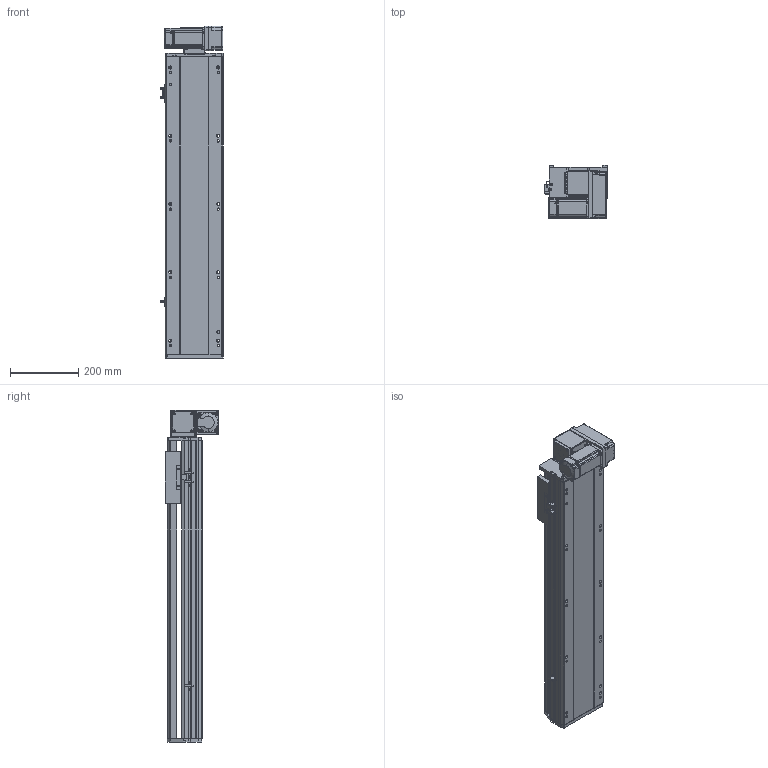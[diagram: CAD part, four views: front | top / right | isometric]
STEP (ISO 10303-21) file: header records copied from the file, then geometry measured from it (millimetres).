
FILE_DESCRIPTION (( 'STEP AP214' ), '1' );
FILE_NAME ('RTB17S-XX-600-RM-M40-C4.STEP', '2025-12-11T08:12:23', ( '' ), ( '' ), 'SwSTEP 2.0', 'SolidWorks 2018', '' );
FILE_SCHEMA (( 'AUTOMOTIVE_DESIGN' ));
Length unit declared in the file: millimetre
Products named in the file (14): RTB14-L-018P^RTB17S-RM-々湍釱蚾饜-400W_RTB17S-XX-XX-RM-M40-C4; RTB17S-L-014-T20--々湍釱^RTB17S-RM-々湍釱蚾饜-400W_RTB17S-XX-XX-RM-M40-C4; RTB14-L-017P^RTB17S-RM-々湍釱蚾饜-400W_RTB17S-XX-XX-RM-M40-C4; RTB14-L-005P--轴承塑胶压盖^RTB17S-RM-皮带座装配-400W_RTB17S-XX-XX-RM-M40-C4; RTB17S-L-001耜醱啣^RTB17S-XX-XX-RM-M40-C4; RTH13-BL-012覜茼え俋离^RTB17S-XX-XX-RM-M40-C4; 400W侜督萇儂^RTB17S-XX-XX-RM-M40-C4; RTB17S-XX-600-RM-M40-C4; RTB17-R-011菁釱^RTB17S-XX-XX-RM-M40-C4; RTB17S-RM-々湍釱蚾饜-400W^RTB17S-XX-XX-RM-M40-C4; RTB17S-L-007奻裔^RTB17S-XX-XX-RM-M40-C4; RTB14-L-008-M20--萇儂啣^RTB17S-RM-々湍釱蚾饜-400W_RTB17S-XX-XX-RM-M40-C4; OMRON EE-SX672 传感器^RTB17S-XX-XX-RM-M40-C4; RTB17S-L-004佪裝蹟譫蟀諉釱^RTB17S-XX-XX-RM-M40-C4
Assembly tree (16 placements, depth 3):
  RTB17S-XX-600-RM-M40-C4
    RTB17-R-011菁釱^RTB17S-XX-XX-RM-M40-C4
    RTB17S-L-007奻裔^RTB17S-XX-XX-RM-M40-C4
    OMRON EE-SX672 传感器^RTB17S-XX-XX-RM-M40-C4  x3
    RTB17S-L-001耜醱啣^RTB17S-XX-XX-RM-M40-C4
    400W侜督萇儂^RTB17S-XX-XX-RM-M40-C4
    RTB17S-L-004佪裝蹟譫蟀諉釱^RTB17S-XX-XX-RM-M40-C4
    RTH13-BL-012覜茼え俋离^RTB17S-XX-XX-RM-M40-C4
    RTB17S-RM-々湍釱蚾饜-400W^RTB17S-XX-XX-RM-M40-C4
      RTB17S-L-014-T20--々湍釱^RTB17S-RM-々湍釱蚾饜-400W_RTB17S-XX-XX-RM-M40-C4
      RTB14-L-005P--轴承塑胶压盖^RTB17S-RM-皮带座装配-400W_RTB17S-XX-XX-RM-M40-C4
      RTB14-L-008-M20--萇儂啣^RTB17S-RM-々湍釱蚾饜-400W_RTB17S-XX-XX-RM-M40-C4
      RTB14-L-017P^RTB17S-RM-々湍釱蚾饜-400W_RTB17S-XX-XX-RM-M40-C4  x2
      RTB14-L-018P^RTB17S-RM-々湍釱蚾饜-400W_RTB17S-XX-XX-RM-M40-C4
Bounding box: 183.5 x 156.5 x 972.5 mm (x, y, z)
Volume: 9115026 mm3; surface area: 1141449 mm2
Topology: 15 solids, 15 shells, 2173 faces, 5979 edges, 3897 vertices
Faces by surface type: plane 1064, cylinder 661, bspline 301, cone 139, torus 8
Entity records: 61097 total; most frequent: CARTESIAN_POINT 16984, ORIENTED_EDGE 8802, DIRECTION 8216, EDGE_CURVE 4401, VERTEX_POINT 2885, AXIS2_PLACEMENT_3D 2815, LINE 2586, VECTOR 2586
